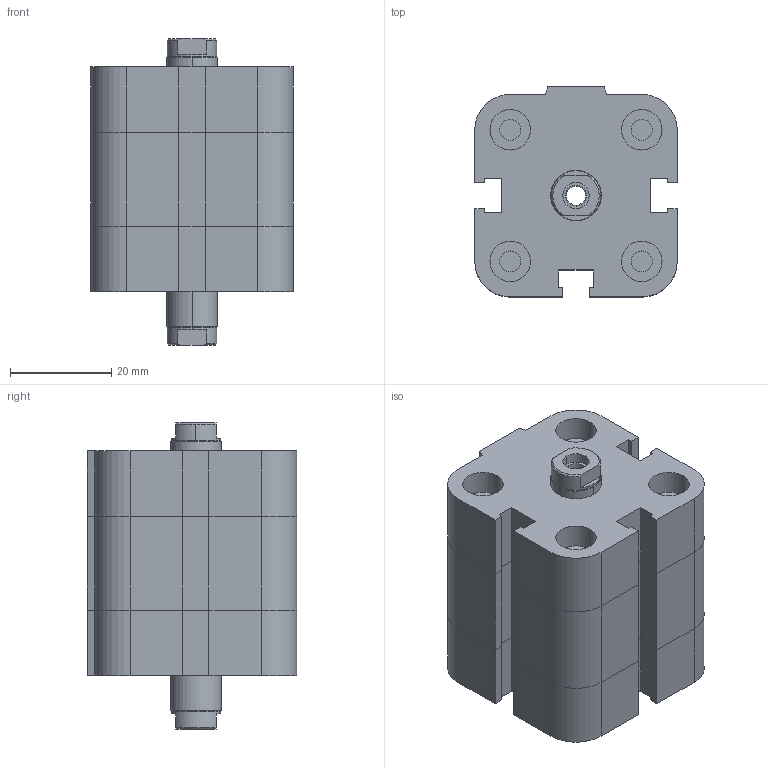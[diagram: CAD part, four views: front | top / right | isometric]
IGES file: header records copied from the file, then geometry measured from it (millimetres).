
Global section: file name: No Iges File Name specified; native system: Autodesk Inventor 2009; preprocessor: AutoDesk Inventor Iges Exporter R2009; author: maffial1; date: 20090420.201155; units: millimetre
Bounding box: 40 x 41.5 x 60.5 mm (x, y, z)
Volume: 62419.5 mm3; surface area: 18181.2 mm2
Topology: 2 solids, 2 shells, 204 faces, 456 edges, 278 vertices
Faces by surface type: plane 114, bspline 44, revolution 20, cylinder 18, cone 8
